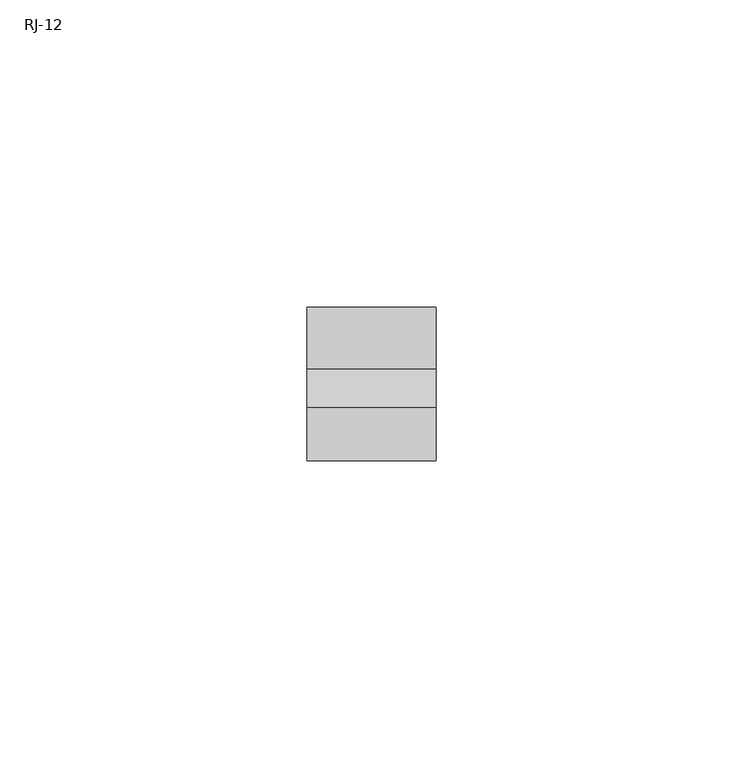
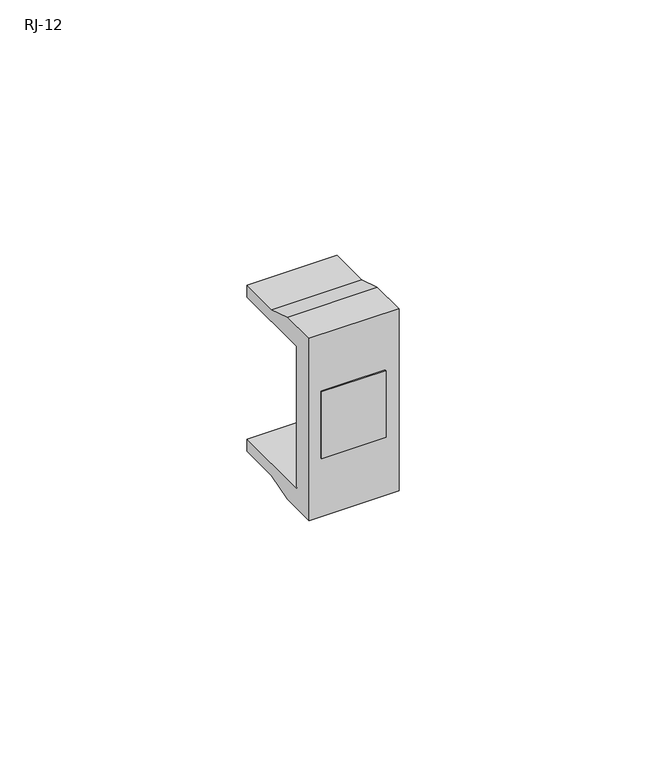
"""IFC4 building model written with IfcOpenShell, lengths in millimetres: proxy geometry, КНС_РозеткиТелефонные_DKC : RJ-12."""

from ifc_helpers import new_model, si_unit, frame, origin, place, context, project, spatial, polyline, outline, extrude, faceted_brep, source, transform, mapped, element, save


def rj_12_b521d4fd(model_context):
    return source(origin(), model_context, "Body", "SolidModel", [
        extrude(outline(polyline([(7.5, -25.0), (-7.5, -25.0), (-7.5, -20.0), (7.5, -20.0), (7.5, -25.0)])), frame((0.0, 0.0, -8.25), z_axis=(0.0, 0.0, 1.0), x_axis=(1.0, 0.0, 0.0)), (0.0, 0.0, 1.0), 16.5),
        faceted_brep([(-10.5, -20.0, -17.5), (10.5, -20.0, -17.5), (10.5, 0.0, -17.5), (-10.5, 0.0, -17.5), (10.5, -20.0, 17.5), (-10.5, -20.0, 17.5), (-10.5, 0.0, 17.5), (10.5, 0.0, 17.5), (7.5, -20.0, -8.25), (7.5, -20.0, 8.25), (-7.5, -20.0, 8.25), (-7.5, -20.0, -8.25), (-10.5, -10.0, 20.5), (10.5, -10.0, 20.5), (10.5, 0.0, 20.5), (-10.5, 0.0, 20.5), (-10.5, -16.2913439, 22.5), (10.5, -16.2913439, 22.5), (10.5, -10.0, -20.5), (-10.5, -10.0, -20.5), (-10.5, 0.0, -20.5), (10.5, 0.0, -20.5), (10.5, -16.2913439, -22.5), (-10.5, -16.2913439, -22.5), (10.5, -25.0, 22.5), (-10.5, -25.0, 22.5), (-10.5, -25.0, -22.5), (10.5, -25.0, -22.5), (7.5, -25.0, 8.25), (7.5, -25.0, -8.25), (-7.5, -25.0, -8.25), (-7.5, -25.0, 8.25)], [[[0, 1, 2, 3]], [[4, 5, 6, 7]], [[1, 0, 5, 4], [8, 9, 10, 11]], [[12, 13, 14, 15]], [[13, 12, 16, 17]], [[18, 19, 20, 21]], [[19, 18, 22, 23]], [[24, 25, 26, 27], [28, 29, 30, 31]], [[14, 7, 6, 15]], [[2, 21, 20, 3]], [[25, 24, 17, 16]], [[26, 25, 16, 12, 15, 6, 5, 0, 3, 20, 19, 23]], [[27, 26, 23, 22]], [[24, 27, 22, 18, 21, 2, 1, 4, 7, 14, 13, 17]], [[29, 28, 9, 8]], [[30, 29, 8, 11]], [[31, 30, 11, 10]], [[28, 31, 10, 9]]]),
    ])


if __name__ == "__main__":
    model = new_model("IFC4")
    model_context = context("Model", 3, world=origin())
    ifc_project = project(units=[si_unit("LENGTHUNIT", "METRE", prefix="MILLI")], contexts=[model_context])
    site = spatial("IfcSite", under=ifc_project)
    building = spatial("IfcBuilding", under=site)
    placement = place(None, origin())
    rj_12_shape = rj_12_b521d4fd(model_context)
    element("IfcBuildingElementProxy", 1, Name="КНС_РозеткиТелефонные_DKC : RJ-12", ObjectType="КНС_РозеткиТелефонные_DKC : RJ-12", at=placement, inside=building, context=model_context, shape_type="MappedRepresentation", body=[
        mapped(rj_12_shape, transform((0.0, 0.0, 0.0), x_axis=(1.0, 0.0, 0.0), y_axis=(0.0, 1.0, 0.0), z_axis=(0.0, 0.0, 1.0))),
    ])
    save(model, "model.ifc")
